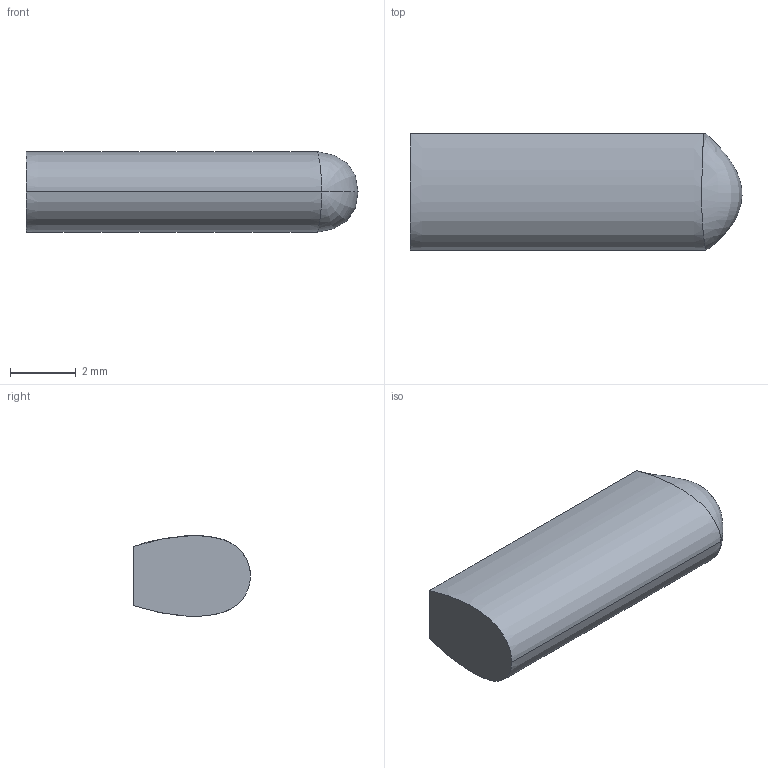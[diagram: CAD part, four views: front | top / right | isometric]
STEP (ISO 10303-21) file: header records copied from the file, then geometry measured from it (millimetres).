
FILE_DESCRIPTION((''),'1');
FILE_NAME('ELEK-ST12-12R','2001-03-30T',('rgoetz'),(''),'PRO/ENGINEER BY PARAMETRIC TECHNOLOGY CORPORATION, 2000350','PRO/ENGINEER BY PARAMETRIC TECHNOLOGY CORPORATION, 2000350','');
FILE_SCHEMA(('CONFIG_CONTROL_DESIGN'));
Length unit declared in the file: millimetre
Products named in the file (1): ELEK-ST12-12R
Bounding box: 10.1 x 3.55 x 2.46 mm (x, y, z)
Volume: 72.3 mm3; surface area: 111.4 mm2
Topology: 1 solids, 1 shells, 6 faces, 13 edges, 7 vertices
Faces by surface type: plane 2, extrusion 2, bspline 2
Entity records: 634 total; most frequent: CARTESIAN_POINT 493, ORIENTED_EDGE 22, EDGE_CURVE 11, DIRECTION 10, B_SPLINE_CURVE_WITH_KNOTS 9, VERTEX_POINT 7, VECTOR 6, EDGE_LOOP 6
